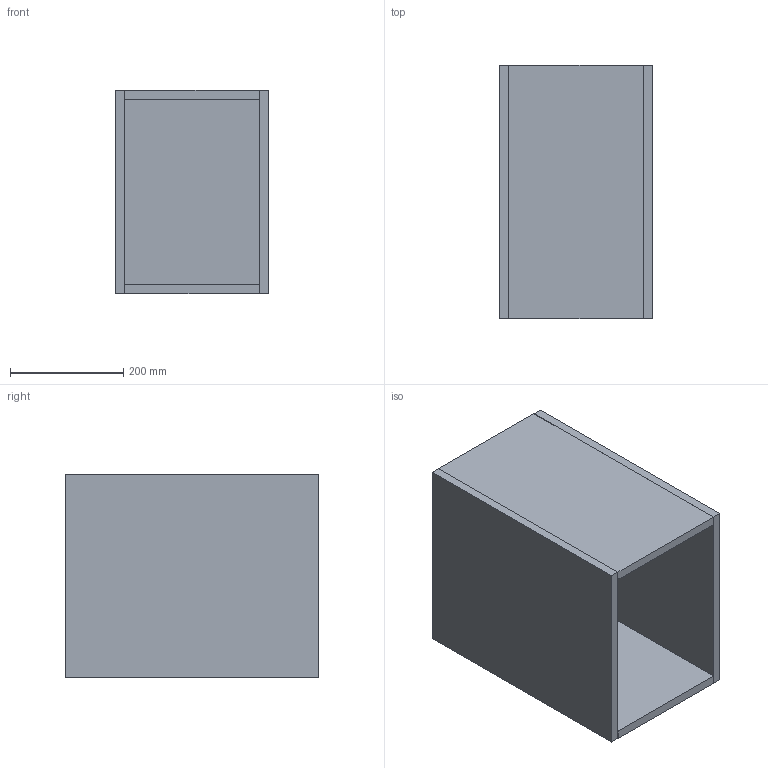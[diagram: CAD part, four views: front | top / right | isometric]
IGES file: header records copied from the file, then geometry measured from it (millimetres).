
Start section: Data from Parasolid IGES Translator 19.0.9, Copyright(c) 2006 Siemens PL M Software. All Rights Reserved.
Global section: file name: noorth-SI-H 36 D 47 W 27_8358.igs; native system: By Siemens PLM Incorporated; preprocessor: XPlus GENERIC/IGES 19.0.9; author: Noname; organization: Noname; date: 20200601.093816; units: metre
Bounding box: 270.01 x 448.06 x 360 mm (x, y, z)
Volume: 8796808 mm3; surface area: 1326677.3 mm2
Topology: 5 solids, 5 shells, 30 faces, 60 edges, 40 vertices
Faces by surface type: plane 30
